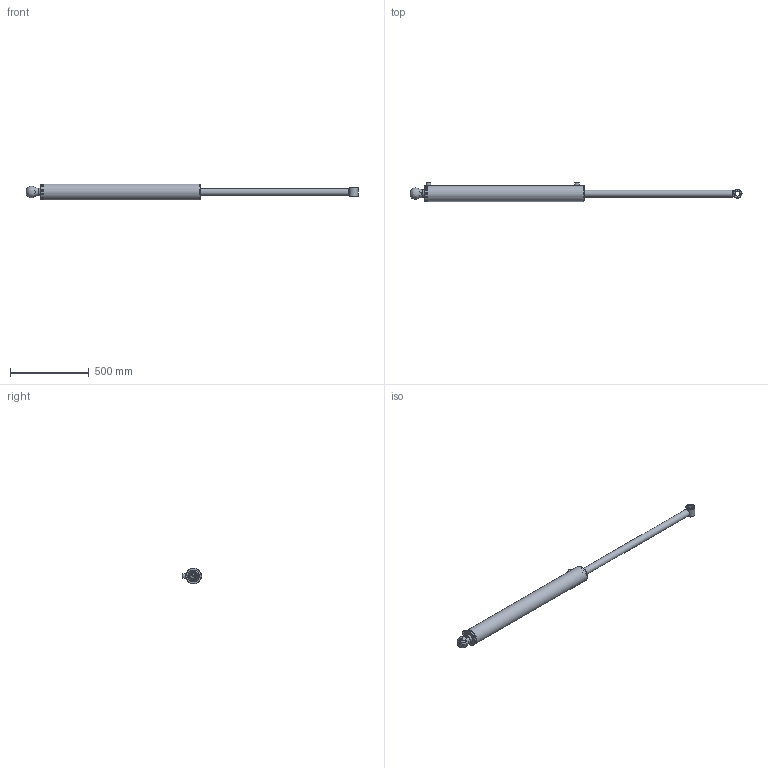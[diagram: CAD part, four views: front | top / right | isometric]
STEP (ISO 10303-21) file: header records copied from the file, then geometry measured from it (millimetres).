
FILE_DESCRIPTION(/* description */ ('Alibre Inc.'),/* implementation_level */ '2;1');
FILE_NAME(/* name */ 'export0',/* time_stamp */ '2016-08-16T10:06:06+12:00',/* author */ (''),/* organization */ (''),/* preprocessor_version */ 'ST-DEVELOPER v14',/* originating_system */ 'Alibre',/* authorisation */ '');
FILE_SCHEMA (('AUTOMOTIVE_DESIGN'));
Length unit declared in the file: centimetre
Bounding box: 2112.86 x 121.6 x 101.6 mm (x, y, z)
Volume: 4471336.1 mm3; surface area: 953418.2 mm2
Topology: 12 solids, 12 shells, 148 faces, 306 edges, 191 vertices
Faces by surface type: cylinder 57, plane 48, cone 26, torus 16, bspline 1
Full cylindrical faces by diameter (mm): 7 x1, 8.3 x2, 8.4 x1, 12.7 x2, 19.1 x2, 29.35 x1, 29.972 x1, 30 x2, 31.75 x1, 31.8 x1, 31.801 x1, 44.45 x2, 44.53 x2, 50.8 x1, 53.25 x2, 53.97 x2, 57.15 x1, 73.03 x1, 81.9 x1, 83.06 x1, 84.3 x2, 85.27 x2, 85.5 x1, 87.53 x2, 88.75 x1, 88.79 x2, 88.9 x2, 92.1 x1, 101.6 x3
Entity records: 4071 total; most frequent: CARTESIAN_POINT 1180, DIRECTION 562, ORIENTED_EDGE 372, AXIS2_PLACEMENT_3D 297, FACE_BOUND 270, EDGE_LOOP 267, EDGE_CURVE 186, VERTEX_POINT 166
